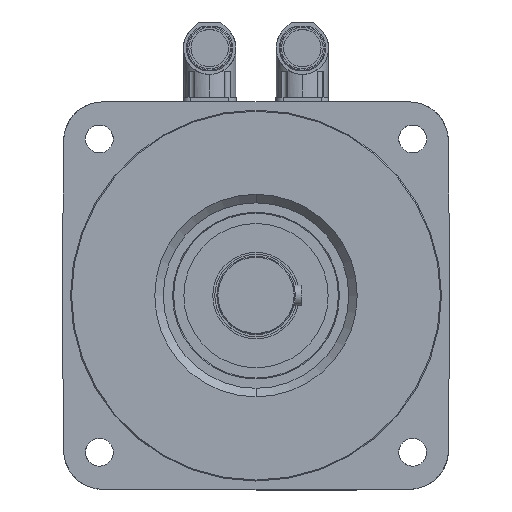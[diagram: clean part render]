
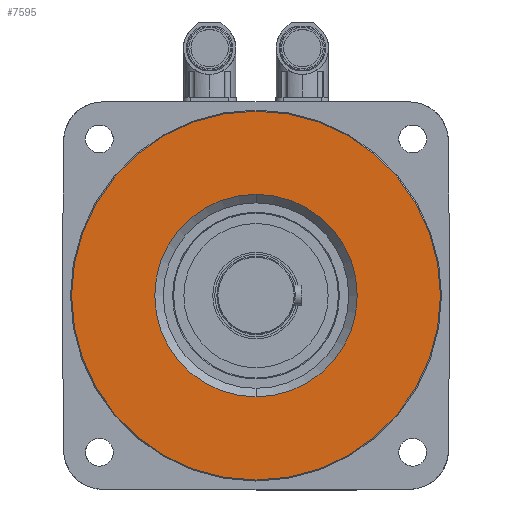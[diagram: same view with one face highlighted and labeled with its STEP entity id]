
A CAD part, top view. The second image highlights one B-rep face of the part: STEP entity #7595.
In plain terms, the highlighted planar face has unit normal (0, 0, 1).
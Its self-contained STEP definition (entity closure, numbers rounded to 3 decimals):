
#2579 = EDGE_CURVE ( 'NONE', #2580, #2584, #26917, .T. ) ;
#2580 = VERTEX_POINT ( 'NONE', #26939 ) ;
#2584 = VERTEX_POINT ( 'NONE', #27016 ) ;
#3854 = EDGE_CURVE ( 'NONE', #3925, #3926, #13235, .T. ) ;
#3925 = VERTEX_POINT ( 'NONE', #13398 ) ;
#3926 = VERTEX_POINT ( 'NONE', #13397 ) ;
#7595 = ADVANCED_FACE ( 'NONE', ( #17445, #17444 ), #17443, .T. ) ;
#7598 = EDGE_LOOP ( 'NONE', ( #7652, #7659 ) ) ;
#7652 = ORIENTED_EDGE ( 'NONE', *, *, #7657, .T. ) ;
#7657 = EDGE_CURVE ( 'NONE', #3926, #3925, #17509, .T. ) ;
#7659 = ORIENTED_EDGE ( 'NONE', *, *, #3854, .T. ) ;
#7660 = EDGE_LOOP ( 'NONE', ( #7664, #7668 ) ) ;
#7664 = ORIENTED_EDGE ( 'NONE', *, *, #2579, .T. ) ;
#7668 = ORIENTED_EDGE ( 'NONE', *, *, #7674, .T. ) ;
#7674 = EDGE_CURVE ( 'NONE', #2584, #2580, #17575, .T. ) ;
#13231 = DIRECTION ( 'NONE',  ( 1., 0., 0. ) ) ;
#13232 = DIRECTION ( 'NONE',  ( 0., 0., 1. ) ) ;
#13233 = CARTESIAN_POINT ( 'NONE',  ( 0., 0., 2.9 ) ) ;
#13234 = AXIS2_PLACEMENT_3D ( 'NONE', #13233, #13232, #13231 ) ;
#13235 = CIRCLE ( 'NONE', #13234, 89.5 ) ;
#13397 = CARTESIAN_POINT ( 'NONE',  ( -89.5, 0., 2.9 ) ) ;
#13398 = CARTESIAN_POINT ( 'NONE',  ( 89.5, 0., 2.9 ) ) ;
#17442 = AXIS2_PLACEMENT_3D ( 'NONE', #17460, #17459, #17458 ) ;
#17443 = PLANE ( 'NONE',  #17442 ) ;
#17444 = FACE_BOUND ( 'NONE', #7660, .T. ) ;
#17445 = FACE_OUTER_BOUND ( 'NONE', #7598, .T. ) ;
#17458 = DIRECTION ( 'NONE',  ( 1., 0., 0. ) ) ;
#17459 = DIRECTION ( 'NONE',  ( 0., 0., 1. ) ) ;
#17460 = CARTESIAN_POINT ( 'NONE',  ( 0., 40.462, 2.9 ) ) ;
#17505 = DIRECTION ( 'NONE',  ( 1., 0., 0. ) ) ;
#17506 = DIRECTION ( 'NONE',  ( 0., 0., 1. ) ) ;
#17507 = CARTESIAN_POINT ( 'NONE',  ( 0., 0., 2.9 ) ) ;
#17508 = AXIS2_PLACEMENT_3D ( 'NONE', #17507, #17506, #17505 ) ;
#17509 = CIRCLE ( 'NONE', #17508, 89.5 ) ;
#17571 = DIRECTION ( 'NONE',  ( 0., 1., 0. ) ) ;
#17572 = DIRECTION ( 'NONE',  ( 0., 0., -1. ) ) ;
#17573 = CARTESIAN_POINT ( 'NONE',  ( 0., 0., 2.9 ) ) ;
#17574 = AXIS2_PLACEMENT_3D ( 'NONE', #17573, #17572, #17571 ) ;
#17575 = CIRCLE ( 'NONE', #17574, 49.127 ) ;
#26913 = DIRECTION ( 'NONE',  ( 0., 1., 0. ) ) ;
#26914 = DIRECTION ( 'NONE',  ( 0., 0., -1. ) ) ;
#26915 = CARTESIAN_POINT ( 'NONE',  ( 0., 0., 2.9 ) ) ;
#26916 = AXIS2_PLACEMENT_3D ( 'NONE', #26915, #26914, #26913 ) ;
#26917 = CIRCLE ( 'NONE', #26916, 49.127 ) ;
#26939 = CARTESIAN_POINT ( 'NONE',  ( 0., -49.127, 2.9 ) ) ;
#27016 = CARTESIAN_POINT ( 'NONE',  ( 0., 49.127, 2.9 ) ) ;
